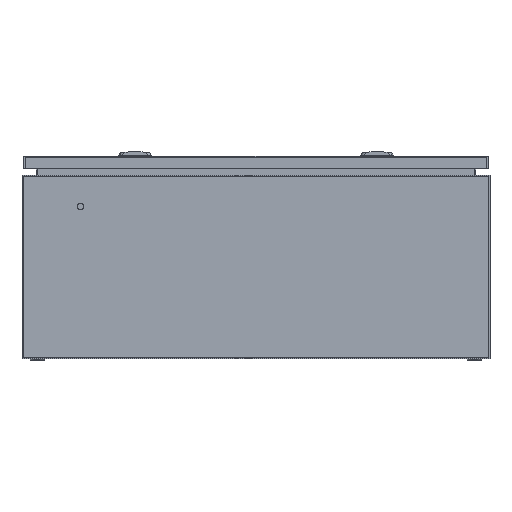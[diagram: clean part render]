
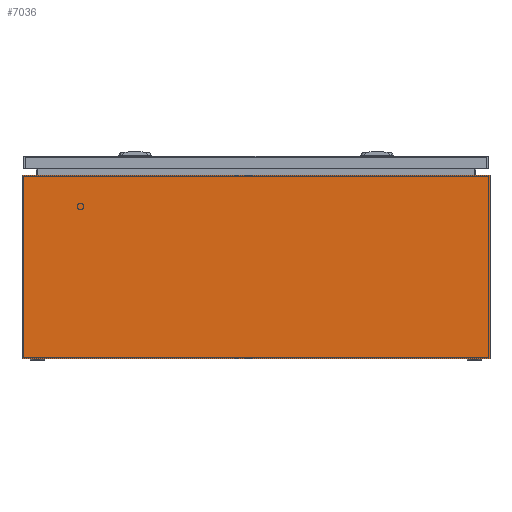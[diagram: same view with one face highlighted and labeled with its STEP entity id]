
A CAD part, left-side view. The second image highlights one B-rep face of the part: STEP entity #7036.
In plain terms, the highlighted planar face has unit normal (-1, 0, 0).
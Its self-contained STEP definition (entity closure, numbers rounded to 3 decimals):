
#301=LINE('',#10984,#987);
#315=LINE('',#11012,#1001);
#316=LINE('',#11014,#1002);
#317=LINE('',#11016,#1003);
#987=VECTOR('',#8835,1000.);
#1001=VECTOR('',#8859,1000.);
#1002=VECTOR('',#8860,1000.);
#1003=VECTOR('',#8861,1000.);
#1725=ORIENTED_EDGE('',*,*,#3681,.T.);
#1726=ORIENTED_EDGE('',*,*,#3667,.F.);
#1727=ORIENTED_EDGE('',*,*,#3682,.F.);
#1728=ORIENTED_EDGE('',*,*,#3683,.T.);
#3667=EDGE_CURVE('',#4642,#4643,#301,.T.);
#3681=EDGE_CURVE('',#4652,#4643,#315,.T.);
#3682=EDGE_CURVE('',#4653,#4642,#316,.T.);
#3683=EDGE_CURVE('',#4653,#4652,#317,.T.);
#4642=VERTEX_POINT('',#10983);
#4643=VERTEX_POINT('',#10985);
#4652=VERTEX_POINT('',#11013);
#4653=VERTEX_POINT('',#11015);
#5548=EDGE_LOOP('',(#1725,#1726,#1727,#1728));
#6146=FACE_BOUND('',#5548,.T.);
#6737=PLANE('',#8050);
#7036=ADVANCED_FACE('',(#6146),#6737,.F.);
#8050=AXIS2_PLACEMENT_3D('',#11011,#8857,#8858);
#8835=DIRECTION('',(0.,-1.,0.));
#8857=DIRECTION('',(1.,0.,0.));
#8858=DIRECTION('',(0.,0.,-1.));
#8859=DIRECTION('',(0.,0.,1.));
#8860=DIRECTION('',(0.,0.,1.));
#8861=DIRECTION('',(0.,-1.,0.));
#10983=CARTESIAN_POINT('',(-250.,600.,105.2));
#10984=CARTESIAN_POINT('',(-250.,600.,105.2));
#10985=CARTESIAN_POINT('',(-250.,0.,105.2));
#11011=CARTESIAN_POINT('',(-250.,600.,-130.));
#11012=CARTESIAN_POINT('',(-250.,0.,-130.));
#11013=CARTESIAN_POINT('',(-250.,0.,-130.));
#11014=CARTESIAN_POINT('',(-250.,600.,-130.));
#11015=CARTESIAN_POINT('',(-250.,600.,-130.));
#11016=CARTESIAN_POINT('',(-250.,600.,-130.));
